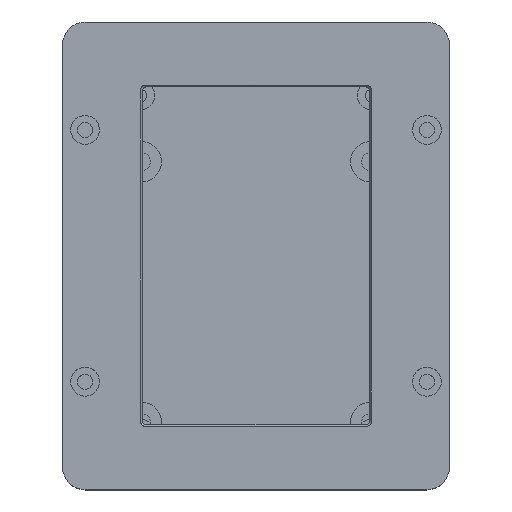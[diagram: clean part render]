
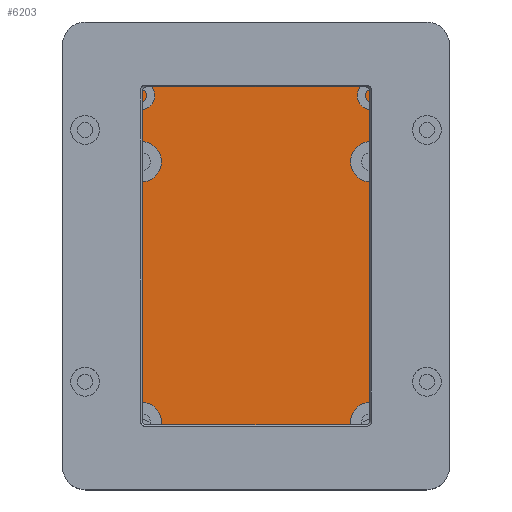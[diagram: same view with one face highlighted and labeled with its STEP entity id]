
A CAD part, top view. The second image highlights one B-rep face of the part: STEP entity #6203.
In plain terms, the highlighted planar face has unit normal (0, 0, 1).
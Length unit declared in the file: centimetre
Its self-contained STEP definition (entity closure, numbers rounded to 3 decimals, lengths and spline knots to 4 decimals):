
#184=FACE_BOUND('',#1006,.T.);
#185=FACE_BOUND('',#1007,.T.);
#186=FACE_BOUND('',#1008,.T.);
#187=FACE_BOUND('',#1009,.T.);
#321=CIRCLE('',#6657,0.45);
#322=CIRCLE('',#6659,0.25);
#323=CIRCLE('',#6660,0.45);
#324=CIRCLE('',#6661,0.45);
#325=CIRCLE('',#6662,0.25);
#326=CIRCLE('',#6663,0.25);
#327=CIRCLE('',#6664,0.45);
#328=CIRCLE('',#6665,0.25);
#329=CIRCLE('',#6666,0.45);
#330=CIRCLE('',#6667,0.45);
#331=CIRCLE('',#6668,0.45);
#332=CIRCLE('',#6669,0.45);
#661=FACE_OUTER_BOUND('',#1005,.T.);
#1005=EDGE_LOOP('',(#4530,#4531,#4532,#4533,#4534,#4535,#4536,#4537,#4538,
#4539,#4540,#4541,#4542,#4543,#4544,#4545,#4546,#4547,#4548,#4549,#4550,
#4551,#4552,#4553));
#1006=EDGE_LOOP('',(#4554));
#1007=EDGE_LOOP('',(#4555));
#1008=EDGE_LOOP('',(#4556));
#1009=EDGE_LOOP('',(#4557));
#1320=LINE('',#9104,#1922);
#1330=LINE('',#9124,#1932);
#1332=LINE('',#9127,#1934);
#1343=LINE('',#9150,#1945);
#1347=LINE('',#9158,#1949);
#1364=LINE('',#9207,#1966);
#1372=LINE('',#9223,#1974);
#1374=LINE('',#9226,#1976);
#1504=LINE('',#9641,#2106);
#1505=LINE('',#9645,#2107);
#1506=LINE('',#9649,#2108);
#1507=LINE('',#9653,#2109);
#1508=LINE('',#9657,#2110);
#1509=LINE('',#9661,#2111);
#1510=LINE('',#9664,#2112);
#1511=LINE('',#9666,#2113);
#1922=VECTOR('',#7165,1.);
#1932=VECTOR('',#7179,1.);
#1934=VECTOR('',#7183,1.);
#1945=VECTOR('',#7200,1.);
#1949=VECTOR('',#7204,1.);
#1966=VECTOR('',#7239,1.);
#1974=VECTOR('',#7251,1.);
#1976=VECTOR('',#7255,1.);
#2106=VECTOR('',#7683,1.);
#2107=VECTOR('',#7686,1.);
#2108=VECTOR('',#7689,1.);
#2109=VECTOR('',#7692,1.);
#2110=VECTOR('',#7695,1.);
#2111=VECTOR('',#7698,1.);
#2112=VECTOR('',#7701,1.);
#2113=VECTOR('',#7702,1.);
#2524=VERTEX_POINT('',#9101);
#2525=VERTEX_POINT('',#9103);
#2532=VERTEX_POINT('',#9121);
#2533=VERTEX_POINT('',#9123);
#2542=VERTEX_POINT('',#9149);
#2545=VERTEX_POINT('',#9155);
#2546=VERTEX_POINT('',#9157);
#2569=VERTEX_POINT('',#9206);
#2574=VERTEX_POINT('',#9220);
#2575=VERTEX_POINT('',#9222);
#2697=VERTEX_POINT('',#9633);
#2699=VERTEX_POINT('',#9637);
#2700=VERTEX_POINT('',#9642);
#2701=VERTEX_POINT('',#9644);
#2702=VERTEX_POINT('',#9646);
#2703=VERTEX_POINT('',#9648);
#2704=VERTEX_POINT('',#9650);
#2705=VERTEX_POINT('',#9652);
#2706=VERTEX_POINT('',#9654);
#2707=VERTEX_POINT('',#9656);
#2708=VERTEX_POINT('',#9658);
#2709=VERTEX_POINT('',#9660);
#2710=VERTEX_POINT('',#9662);
#2711=VERTEX_POINT('',#9665);
#2712=VERTEX_POINT('',#9668);
#2713=VERTEX_POINT('',#9670);
#2714=VERTEX_POINT('',#9672);
#2715=VERTEX_POINT('',#9674);
#3139=EDGE_CURVE('',#2525,#2524,#1320,.T.);
#3149=EDGE_CURVE('',#2533,#2532,#1330,.T.);
#3151=EDGE_CURVE('',#2532,#2525,#1332,.T.);
#3162=EDGE_CURVE('',#2542,#2533,#1343,.T.);
#3166=EDGE_CURVE('',#2546,#2545,#1347,.T.);
#3191=EDGE_CURVE('',#2569,#2546,#1364,.T.);
#3199=EDGE_CURVE('',#2575,#2574,#1372,.T.);
#3201=EDGE_CURVE('',#2574,#2569,#1374,.T.);
#3398=EDGE_CURVE('',#2697,#2699,#321,.T.);
#3399=EDGE_CURVE('',#2524,#2575,#1504,.T.);
#3400=EDGE_CURVE('',#2545,#2700,#322,.T.);
#3401=EDGE_CURVE('',#2700,#2701,#1505,.T.);
#3402=EDGE_CURVE('',#2701,#2702,#323,.T.);
#3403=EDGE_CURVE('',#2702,#2703,#1506,.T.);
#3404=EDGE_CURVE('',#2703,#2704,#324,.T.);
#3405=EDGE_CURVE('',#2704,#2705,#1507,.T.);
#3406=EDGE_CURVE('',#2705,#2706,#325,.T.);
#3407=EDGE_CURVE('',#2706,#2707,#1508,.T.);
#3408=EDGE_CURVE('',#2707,#2708,#326,.T.);
#3409=EDGE_CURVE('',#2708,#2709,#1509,.T.);
#3410=EDGE_CURVE('',#2709,#2710,#327,.T.);
#3411=EDGE_CURVE('',#2710,#2697,#1510,.T.);
#3412=EDGE_CURVE('',#2699,#2711,#1511,.T.);
#3413=EDGE_CURVE('',#2711,#2542,#328,.T.);
#3414=EDGE_CURVE('',#2712,#2712,#329,.T.);
#3415=EDGE_CURVE('',#2713,#2713,#330,.T.);
#3416=EDGE_CURVE('',#2714,#2714,#331,.T.);
#3417=EDGE_CURVE('',#2715,#2715,#332,.T.);
#4530=ORIENTED_EDGE('',*,*,#3139,.T.);
#4531=ORIENTED_EDGE('',*,*,#3399,.T.);
#4532=ORIENTED_EDGE('',*,*,#3199,.T.);
#4533=ORIENTED_EDGE('',*,*,#3201,.T.);
#4534=ORIENTED_EDGE('',*,*,#3191,.T.);
#4535=ORIENTED_EDGE('',*,*,#3166,.T.);
#4536=ORIENTED_EDGE('',*,*,#3400,.T.);
#4537=ORIENTED_EDGE('',*,*,#3401,.T.);
#4538=ORIENTED_EDGE('',*,*,#3402,.T.);
#4539=ORIENTED_EDGE('',*,*,#3403,.T.);
#4540=ORIENTED_EDGE('',*,*,#3404,.T.);
#4541=ORIENTED_EDGE('',*,*,#3405,.T.);
#4542=ORIENTED_EDGE('',*,*,#3406,.T.);
#4543=ORIENTED_EDGE('',*,*,#3407,.T.);
#4544=ORIENTED_EDGE('',*,*,#3408,.T.);
#4545=ORIENTED_EDGE('',*,*,#3409,.T.);
#4546=ORIENTED_EDGE('',*,*,#3410,.T.);
#4547=ORIENTED_EDGE('',*,*,#3411,.T.);
#4548=ORIENTED_EDGE('',*,*,#3398,.T.);
#4549=ORIENTED_EDGE('',*,*,#3412,.T.);
#4550=ORIENTED_EDGE('',*,*,#3413,.T.);
#4551=ORIENTED_EDGE('',*,*,#3162,.T.);
#4552=ORIENTED_EDGE('',*,*,#3149,.T.);
#4553=ORIENTED_EDGE('',*,*,#3151,.T.);
#4554=ORIENTED_EDGE('',*,*,#3414,.T.);
#4555=ORIENTED_EDGE('',*,*,#3415,.T.);
#4556=ORIENTED_EDGE('',*,*,#3416,.T.);
#4557=ORIENTED_EDGE('',*,*,#3417,.T.);
#5969=PLANE('',#6658);
#6203=ADVANCED_FACE('',(#661,#184,#185,#186,#187),#5969,.T.);
#6657=AXIS2_PLACEMENT_3D('',#9639,#7679,#7680);
#6658=AXIS2_PLACEMENT_3D('',#9640,#7681,#7682);
#6659=AXIS2_PLACEMENT_3D('',#9643,#7684,#7685);
#6660=AXIS2_PLACEMENT_3D('',#9647,#7687,#7688);
#6661=AXIS2_PLACEMENT_3D('',#9651,#7690,#7691);
#6662=AXIS2_PLACEMENT_3D('',#9655,#7693,#7694);
#6663=AXIS2_PLACEMENT_3D('',#9659,#7696,#7697);
#6664=AXIS2_PLACEMENT_3D('',#9663,#7699,#7700);
#6665=AXIS2_PLACEMENT_3D('',#9667,#7703,#7704);
#6666=AXIS2_PLACEMENT_3D('',#9669,#7705,#7706);
#6667=AXIS2_PLACEMENT_3D('',#9671,#7707,#7708);
#6668=AXIS2_PLACEMENT_3D('',#9673,#7709,#7710);
#6669=AXIS2_PLACEMENT_3D('',#9675,#7711,#7712);
#7165=DIRECTION('',(0.,1.,0.));
#7179=DIRECTION('',(0.,-1.,0.));
#7183=DIRECTION('',(-1.,0.,0.));
#7200=DIRECTION('',(-1.,0.,0.));
#7204=DIRECTION('',(-1.,0.,0.));
#7239=DIRECTION('',(0.,1.,0.));
#7251=DIRECTION('',(0.,-1.,0.));
#7255=DIRECTION('',(-1.,0.,0.));
#7679=DIRECTION('center_axis',(0.,0.,-1.));
#7680=DIRECTION('ref_axis',(1.,0.,0.));
#7681=DIRECTION('center_axis',(0.,0.,1.));
#7682=DIRECTION('ref_axis',(1.,0.,0.));
#7683=DIRECTION('',(-1.,0.,0.));
#7684=DIRECTION('center_axis',(0.,0.,1.));
#7685=DIRECTION('ref_axis',(0.,1.,0.));
#7686=DIRECTION('',(0.,-1.,0.));
#7687=DIRECTION('center_axis',(0.,0.,-1.));
#7688=DIRECTION('ref_axis',(1.,0.,0.));
#7689=DIRECTION('',(0.,-1.,0.));
#7690=DIRECTION('center_axis',(0.,0.,-1.));
#7691=DIRECTION('ref_axis',(1.,0.,0.));
#7692=DIRECTION('',(0.,-1.,0.));
#7693=DIRECTION('center_axis',(0.,0.,1.));
#7694=DIRECTION('ref_axis',(-1.,0.,0.));
#7695=DIRECTION('',(1.,0.,0.));
#7696=DIRECTION('center_axis',(0.,0.,1.));
#7697=DIRECTION('ref_axis',(0.,-1.,0.));
#7698=DIRECTION('',(0.,1.,0.));
#7699=DIRECTION('center_axis',(0.,0.,-1.));
#7700=DIRECTION('ref_axis',(1.,0.,0.));
#7701=DIRECTION('',(0.,1.,0.));
#7702=DIRECTION('',(0.,1.,0.));
#7703=DIRECTION('center_axis',(0.,0.,1.));
#7704=DIRECTION('ref_axis',(1.,0.,0.));
#7705=DIRECTION('center_axis',(0.,0.,-1.));
#7706=DIRECTION('ref_axis',(1.,0.,0.));
#7707=DIRECTION('center_axis',(0.,0.,-1.));
#7708=DIRECTION('ref_axis',(1.,0.,0.));
#7709=DIRECTION('center_axis',(0.,0.,-1.));
#7710=DIRECTION('ref_axis',(1.,0.,0.));
#7711=DIRECTION('center_axis',(0.,0.,-1.));
#7712=DIRECTION('ref_axis',(1.,0.,0.));
#9101=CARTESIAN_POINT('',(2.6,4.95,0.25));
#9103=CARTESIAN_POINT('',(2.6,4.92,0.25));
#9104=CARTESIAN_POINT('',(2.6,2.525,0.25));
#9121=CARTESIAN_POINT('',(2.9,4.92,0.25));
#9123=CARTESIAN_POINT('',(2.9,4.95,0.25));
#9124=CARTESIAN_POINT('',(2.9,2.46,0.25));
#9127=CARTESIAN_POINT('',(1.3,4.92,0.25));
#9149=CARTESIAN_POINT('',(3.8,4.95,0.25));
#9150=CARTESIAN_POINT('',(3.8,4.95,0.25));
#9155=CARTESIAN_POINT('',(-3.8,4.95,0.25));
#9157=CARTESIAN_POINT('',(-2.8,4.95,0.25));
#9158=CARTESIAN_POINT('',(3.8,4.95,0.25));
#9206=CARTESIAN_POINT('',(-2.8,4.92,0.25));
#9207=CARTESIAN_POINT('',(-2.8,2.525,0.25));
#9220=CARTESIAN_POINT('',(-2.5,4.92,0.25));
#9222=CARTESIAN_POINT('',(-2.5,4.95,0.25));
#9223=CARTESIAN_POINT('',(-2.5,2.46,0.25));
#9226=CARTESIAN_POINT('',(-1.4,4.92,0.25));
#9633=CARTESIAN_POINT('',(4.05,2.4258,0.25));
#9637=CARTESIAN_POINT('',(4.05,3.1742,0.25));
#9639=CARTESIAN_POINT('Origin',(3.8,2.8,0.25));
#9640=CARTESIAN_POINT('Origin',(0.,0.,0.25));
#9641=CARTESIAN_POINT('',(3.8,4.95,0.25));
#9642=CARTESIAN_POINT('',(-4.05,4.7,0.25));
#9643=CARTESIAN_POINT('Origin',(-3.8,4.7,0.25));
#9644=CARTESIAN_POINT('',(-4.05,3.1742,0.25));
#9645=CARTESIAN_POINT('',(-4.05,4.7,0.25));
#9646=CARTESIAN_POINT('',(-4.05,2.4258,0.25));
#9647=CARTESIAN_POINT('Origin',(-3.8,2.8,0.25));
#9648=CARTESIAN_POINT('',(-4.05,-2.4258,0.25));
#9649=CARTESIAN_POINT('',(-4.05,4.7,0.25));
#9650=CARTESIAN_POINT('',(-4.05,-3.1742,0.25));
#9651=CARTESIAN_POINT('Origin',(-3.8,-2.8,0.25));
#9652=CARTESIAN_POINT('',(-4.05,-4.7,0.25));
#9653=CARTESIAN_POINT('',(-4.05,4.7,0.25));
#9654=CARTESIAN_POINT('',(-3.8,-4.95,0.25));
#9655=CARTESIAN_POINT('Origin',(-3.8,-4.7,0.25));
#9656=CARTESIAN_POINT('',(3.8,-4.95,0.25));
#9657=CARTESIAN_POINT('',(-3.8,-4.95,0.25));
#9658=CARTESIAN_POINT('',(4.05,-4.7,0.25));
#9659=CARTESIAN_POINT('Origin',(3.8,-4.7,0.25));
#9660=CARTESIAN_POINT('',(4.05,-3.1742,0.25));
#9661=CARTESIAN_POINT('',(4.05,-4.7,0.25));
#9662=CARTESIAN_POINT('',(4.05,-2.4258,0.25));
#9663=CARTESIAN_POINT('Origin',(3.8,-2.8,0.25));
#9664=CARTESIAN_POINT('',(4.05,-4.7,0.25));
#9665=CARTESIAN_POINT('',(4.05,4.7,0.25));
#9666=CARTESIAN_POINT('',(4.05,-4.7,0.25));
#9667=CARTESIAN_POINT('Origin',(3.8,4.7,0.25));
#9668=CARTESIAN_POINT('',(2.1,2.1,0.25));
#9669=CARTESIAN_POINT('Origin',(2.55,2.1,0.25));
#9670=CARTESIAN_POINT('',(-3.,-3.7,0.25));
#9671=CARTESIAN_POINT('Origin',(-2.55,-3.7,0.25));
#9672=CARTESIAN_POINT('',(-3.,2.1,0.25));
#9673=CARTESIAN_POINT('Origin',(-2.55,2.1,0.25));
#9674=CARTESIAN_POINT('',(2.1,-3.7,0.25));
#9675=CARTESIAN_POINT('Origin',(2.55,-3.7,0.25));
